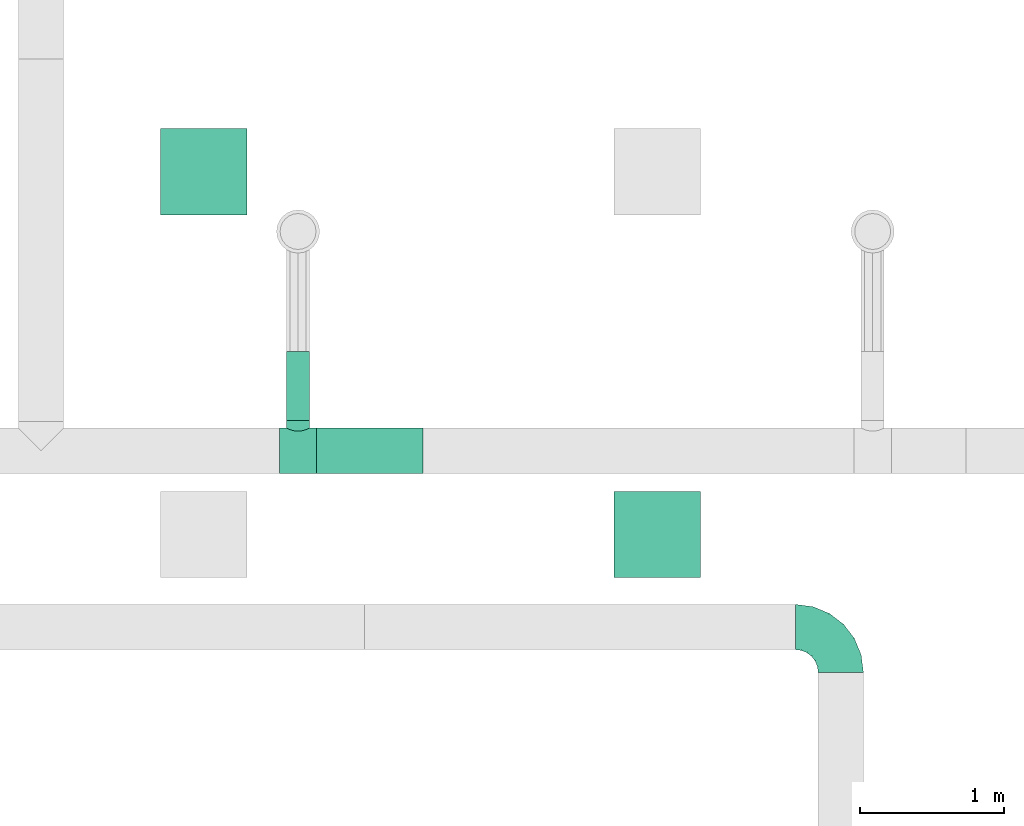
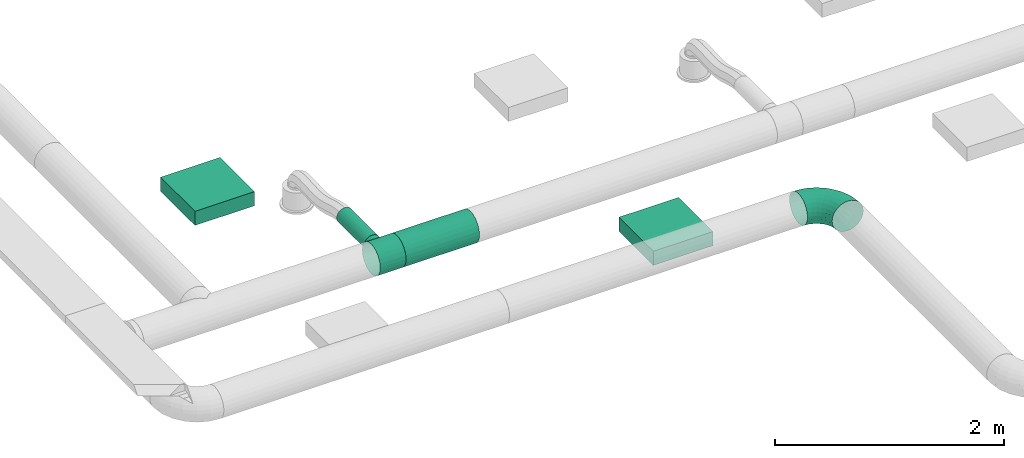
# One storey, part 17 of 119: 2 distribution elements, 2 flow fittings, 2 flow segments.
"""IFC2X3 building model written with IfcOpenShell, lengths in metres."""

import ifcopenshell
import ifcopenshell.guid

model = None  # the IFC model being written
_history = None  # IfcOwnerHistory: only IFC2X3 demands one
_inside = {}  # id of a spatial element -> (the spatial element, [elements in it])
_under = {}  # id of a project, library or spatial element -> (it, [spatial elements below it])
_declared = {}  # id of a project -> (the project, [libraries it declares])
_typed = {}  # id of a type object -> (the type object, [elements of that type])
_made_of = {}  # id of a material, layer set ... -> (it, [elements and type objects made of it])


def new_model(schema):
    """Start an empty IFC model of exactly this schema.

    Asked for "IFC4X3", IfcOpenShell would pick the latest addendum, in which some entities
    have other attributes; the version numbers below select the first issue.
    IFC2X3 requires an IfcOwnerHistory on every rooted entity: one is made here for all.
    """
    global model, _history
    if schema == "IFC4X3":
        model = ifcopenshell.file(schema_version=(4, 3, 0, 0))
    else:
        model = ifcopenshell.file(schema=schema)
    _inside.clear()
    _under.clear()
    _declared.clear()
    _typed.clear()
    _made_of.clear()
    _history = None
    if model.schema == "IFC2X3":
        org = make("IfcOrganization", Name="unknown")
        user = make(
            "IfcPersonAndOrganization",
            ThePerson=make("IfcPerson", FamilyName="unknown"),
            TheOrganization=org,
        )
        app = make(
            "IfcApplication",
            ApplicationDeveloper=org,
            Version="unknown",
            ApplicationFullName="unknown",
            ApplicationIdentifier="unknown",
        )
        _history = make(
            "IfcOwnerHistory",
            OwningUser=user,
            OwningApplication=app,
            ChangeAction="ADDED",
            CreationDate=0,
        )
    return model


def make(cls, **values):
    """One entity of the class cls with the attributes given. An attribute that is None is left unset."""
    return model.create_entity(
        cls, **{name: value for name, value in values.items() if value is not None}
    )


def rooted(cls, **values):
    """An entity with a GlobalId (a new one), such as an element, a storey or a relation."""
    return make(cls, GlobalId=ifcopenshell.guid.new(), OwnerHistory=_history, **values)


def si_unit(unit_type, name, prefix=None):
    """IfcSIUnit, for example si_unit("LENGTHUNIT", "METRE", prefix="MILLI")."""
    return make("IfcSIUnit", UnitType=unit_type, Prefix=prefix, Name=name)


def assignment(units):
    """IfcUnitAssignment: the units of a project."""
    return None if units is None else make("IfcUnitAssignment", Units=units)


def point(xyz):
    """IfcCartesianPoint."""
    return None if xyz is None else make("IfcCartesianPoint", Coordinates=xyz)


def direction(xyz):
    """IfcDirection."""
    return None if xyz is None else make("IfcDirection", DirectionRatios=xyz)


def frame(location, z_axis=None, x_axis=None):
    """IfcAxis2Placement3D, a coordinate frame: its origin and axes. An axis left out is left unset."""
    return make(
        "IfcAxis2Placement3D",
        Location=point(location),
        Axis=direction(z_axis),
        RefDirection=direction(x_axis),
    )


def frame_2d(location, x_axis=None):
    """IfcAxis2Placement2D, a coordinate frame in the plane: its origin and x axis."""
    return make(
        "IfcAxis2Placement2D", Location=point(location), RefDirection=direction(x_axis)
    )


def origin():
    """The frame at (0, 0, 0) with its axes left unset."""
    return frame((0.0, 0.0, 0.0))


def place(relative_to, where):
    """IfcLocalPlacement: puts the frame where relative to a parent placement (None: the world)."""
    return make(
        "IfcLocalPlacement", PlacementRelTo=relative_to, RelativePlacement=where
    )


def context(
    kind, dimensions, precision=None, world=None, true_north=None, identifier=None
):
    """IfcGeometricRepresentationContext, for example the 3D "Model" context."""
    return make(
        "IfcGeometricRepresentationContext",
        ContextIdentifier=identifier,
        ContextType=kind,
        CoordinateSpaceDimension=dimensions,
        Precision=precision,
        WorldCoordinateSystem=world,
        TrueNorth=true_north,
    )


def subcontext(parent, identifier, kind, view, scale=None):
    """IfcGeometricRepresentationSubContext, for example "Body" below "Model"."""
    return make(
        "IfcGeometricRepresentationSubContext",
        ContextIdentifier=identifier,
        ContextType=kind,
        ParentContext=parent,
        TargetScale=scale,
        TargetView=view,
    )


def project(units=None, contexts=None):
    """IfcProject with its units and contexts."""
    return rooted(
        "IfcProject",
        Name="project",
        RepresentationContexts=contexts,
        UnitsInContext=assignment(units),
    )


def spatial(cls, under=None, at=None, **own):
    """A site, building, storey or space (cls), placed at a placement, below another one or the project."""
    s = rooted(cls, ObjectPlacement=at, **own)
    if under is not None:
        _under.setdefault(under.id(), (under, []))[1].append(s)
    return s


def profile(cls, at=None, kind="AREA", **sizes):
    """A parametric profile (cls). Its sizes go by their IFC names, for example OverallWidth=200.0."""
    return make(cls, ProfileType=kind, Position=at, **sizes)


def rectangle(**sizes):
    """IfcRectangleProfileDef."""
    return profile("IfcRectangleProfileDef", **sizes)


def extrude(swept, where, along, depth):
    """IfcExtrudedAreaSolid: the profile swept, set in the frame where, extruded along a direction by depth."""
    return make(
        "IfcExtrudedAreaSolid",
        SweptArea=swept,
        Position=where,
        ExtrudedDirection=direction(along),
        Depth=depth,
    )


def faces_of(points, faces, orient=None, outer=None):
    """IfcFace entities. A face is a list of loops; a loop is a list of indices into points, from 0.

    orient and outer hold one flag for each loop. By default every Orientation is true, the
    first loop of a face is its IfcFaceOuterBound and the others are IfcFaceBound.
    """
    made = []
    for i, loops in enumerate(faces):
        bounds = []
        for j, loop in enumerate(loops):
            is_outer = j == 0 if outer is None else outer[i][j]
            bounds.append(
                make(
                    "IfcFaceOuterBound" if is_outer else "IfcFaceBound",
                    Bound=make("IfcPolyLoop", Polygon=[points[k] for k in loop]),
                    Orientation=True if orient is None else orient[i][j],
                )
            )
        made.append(make("IfcFace", Bounds=bounds))
    return made


def open_shell(faces, orient=None, outer=None):
    """The faces of one IfcOpenShell. surface_model builds it on its shared points."""
    return ("IfcOpenShell", faces, orient, outer)


def surface_model(cls, points, shells):
    """IfcFaceBasedSurfaceModel or IfcShellBasedSurfaceModel (cls): surfaces that need not close."""
    shared = [point(p) for p in points]
    made = [make(c, CfsFaces=faces_of(shared, fs, o, b)) for c, fs, o, b in shells]
    if cls == "IfcFaceBasedSurfaceModel":
        return make(cls, FbsmFaces=made)
    return make(cls, SbsmBoundary=made)


def shape(context_of_items, identifier, shape_type, items):
    """IfcShapeRepresentation: the items that make up one representation, for example the "Body"."""
    return make(
        "IfcShapeRepresentation",
        ContextOfItems=context_of_items,
        RepresentationIdentifier=identifier,
        RepresentationType=shape_type,
        Items=items,
    )


def source(mapping_origin, context_of_items, identifier, shape_type, items):
    """IfcRepresentationMap: a shape defined once, which mapped items show again and again."""
    return make(
        "IfcRepresentationMap",
        MappingOrigin=mapping_origin,
        MappedRepresentation=shape(context_of_items, identifier, shape_type, items),
    )


def transform(
    local_origin,
    x_axis=None,
    y_axis=None,
    z_axis=None,
    scale=None,
    scale2=None,
    scale3=None,
    uniform=True,
):
    """IfcCartesianTransformationOperator3D, or its non-uniform kind. x_axis, y_axis, z_axis: its Axis1, 2, 3."""
    if uniform:
        return make(
            "IfcCartesianTransformationOperator3D",
            Axis1=direction(x_axis),
            Axis2=direction(y_axis),
            LocalOrigin=point(local_origin),
            Scale=scale,
            Axis3=direction(z_axis),
        )
    return make(
        "IfcCartesianTransformationOperator3DnonUniform",
        Axis1=direction(x_axis),
        Axis2=direction(y_axis),
        LocalOrigin=point(local_origin),
        Scale=scale,
        Axis3=direction(z_axis),
        Scale2=scale2,
        Scale3=scale3,
    )


def mapped(mapping_source, mapping_target):
    """IfcMappedItem: shows the shape of a source again, moved by a transform."""
    return make(
        "IfcMappedItem", MappingSource=mapping_source, MappingTarget=mapping_target
    )


def made_of(thing, what):
    """Note that an element or type object is made of a material, layer set ...; save() writes the relation."""
    if what is not None:
        _made_of.setdefault(what.id(), (what, []))[1].append(thing)
    return thing


def element(
    cls,
    number,
    at=None,
    inside=None,
    cuts=None,
    type_object=None,
    material=None,
    context=None,
    identifier="Body",
    shape_type=None,
    held_by="IfcProductDefinitionShape",
    body=None,
    shapes=None,
    **own,
):
    """One element of the class cls, such as IfcWall. Its Tag is "e" and its number.

    at: its placement. inside: the storey or other place that contains it. cuts: it is an
    opening in that element (IfcRelVoidsElement). A single representation is given by context,
    identifier, shape_type and body (its items); several are given by shapes. held_by: the class
    of the entity that holds the representations. save() writes the other relations.
    """
    e = rooted(cls, Tag="e%d" % number, ObjectPlacement=at, **own)
    if body is not None:
        shapes = [shape(context, identifier, shape_type, body)]
    if shapes is not None:
        e.Representation = make(held_by, Representations=shapes)
    if inside is not None:
        _inside.setdefault(inside.id(), (inside, []))[1].append(e)
    if cuts is not None:
        rooted(
            "IfcRelVoidsElement", RelatingBuildingElement=cuts, RelatedOpeningElement=e
        )
    if type_object is not None:
        _typed.setdefault(type_object.id(), (type_object, []))[1].append(e)
    return made_of(e, material)


def aggregate(whole, parts):
    """IfcRelAggregates: a whole, such as a stair, and the parts it consists of."""
    return rooted("IfcRelAggregates", RelatingObject=whole, RelatedObjects=parts)


def save(model, path):
    """Write the relations noted so far, then the file.

    IfcRelAggregates (storeys below a building ...), IfcRelContainedInSpatialStructure (elements
    in a storey), IfcRelDefinesByType, IfcRelAssociatesMaterial and IfcRelDeclares: one each for
    every whole, place, type object, material and project.
    """
    for whole, parts in _under.values():
        aggregate(whole, parts)
    for where, things in _inside.values():
        rooted(
            "IfcRelContainedInSpatialStructure",
            RelatedElements=things,
            RelatingStructure=where,
        )
    for kind, things in _typed.values():
        rooted("IfcRelDefinesByType", RelatedObjects=things, RelatingType=kind)
    for what, things in _made_of.values():
        rooted("IfcRelAssociatesMaterial", RelatedObjects=things, RelatingMaterial=what)
    for by, libraries in _declared.values():
        rooted("IfcRelDeclares", RelatingContext=by, RelatedDefinitions=libraries)
    model.write(path)


model = new_model("IFC2X3")

# Units and contexts
model_context = context("Model", 3, precision=1e-05, world=origin(), true_north=direction((-0.4480736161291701, 0.8939966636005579)))
body_context = subcontext(model_context, "Body", "Model", "MODEL_VIEW")
ifc_project = project(units=[si_unit("LENGTHUNIT", "METRE"), si_unit("AREAUNIT", "SQUARE_METRE"), si_unit("VOLUMEUNIT", "CUBIC_METRE"), si_unit("PLANEANGLEUNIT", "RADIAN"), si_unit("THERMODYNAMICTEMPERATUREUNIT", "KELVIN"), si_unit("MASSUNIT", "GRAM", prefix="KILO"), si_unit("TIMEUNIT", "SECOND")], contexts=[model_context])

# Site, building, storey
site_placement = place(None, origin())
site = spatial("IfcSite", under=ifc_project, at=site_placement, Name="Site 1", CompositionType="ELEMENT")
building_placement = place(site_placement, origin())
building = spatial("IfcBuilding", under=site, at=building_placement, Name="Undefined", CompositionType="ELEMENT")
storey_placement = place(building_placement, frame((0.0, 0.0, 5.4)))
storey = spatial("IfcBuildingStorey", under=building, at=storey_placement, Name="R+1", CompositionType="ELEMENT", Elevation=5.4)

# Flow fitting
shared_shape_1 = source(origin(), body_context, "Body", "SurfaceModel", [
    surface_model("IfcFaceBasedSurfaceModel", [(0.0, 0.04111575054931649, 0.0), (0.0, 0.0, 0.0), (0.2599999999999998, -7.105427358e-15, 0.0), (0.259999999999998, 0.041115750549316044, 0.0), (0.0, -0.03971476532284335, -0.010641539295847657), (0.259999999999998, -0.03971476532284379, -0.010641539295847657), (0.0, -0.0753220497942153, -0.0311994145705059), (0.259999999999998, -0.07532204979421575, -0.0311994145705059), (0.0, -0.10439527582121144, -0.060272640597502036), (0.259999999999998, -0.10439527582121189, -0.060272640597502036), (0.0, -0.12495315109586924, -0.09587992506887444), (0.259999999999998, -0.12495315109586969, -0.09587992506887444), (0.0, -0.13559469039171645, -0.13559469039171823), (0.259999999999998, -0.1355946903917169, -0.13559469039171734), (0.0, -0.135594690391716, -0.17671044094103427), (0.259999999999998, -0.13559469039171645, -0.1767104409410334), (0.0, -0.1249531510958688, -0.21642520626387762), (0.259999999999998, -0.12495315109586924, -0.21642520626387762), (0.0, -0.10439527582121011, -0.2520324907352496), (0.259999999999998, -0.10439527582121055, -0.2520324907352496), (0.0, -0.07532204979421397, -0.2811057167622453), (0.259999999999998, -0.07532204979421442, -0.2811057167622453), (0.0, -0.039714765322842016, -0.3016635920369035), (0.259999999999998, -0.03971476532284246, -0.3016635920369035), (0.0, 1.776356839e-15, -0.3123051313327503), (0.259999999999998, 1.33226763e-15, -0.3123051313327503), (0.0, 0.041115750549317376, -0.31230513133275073), (0.259999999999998, 0.04111575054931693, -0.31230513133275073), (0.0, 0.08083051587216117, -0.30166359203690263), (0.259999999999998, 0.08083051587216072, -0.30166359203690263), (0.0, 0.11643780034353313, -0.28110571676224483), (0.259999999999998, 0.11643780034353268, -0.28110571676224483), (0.0, 0.14551102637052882, -0.25203249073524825), (0.259999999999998, 0.14551102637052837, -0.25203249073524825), (0.0, 0.16606890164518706, -0.2164252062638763), (0.259999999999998, 0.16606890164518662, -0.21642520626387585), (0.0, 0.17671044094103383, -0.1767104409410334), (0.259999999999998, 0.1767104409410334, -0.1767104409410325), (0.0, 0.17671044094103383, -0.1355946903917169), (0.259999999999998, 0.1767104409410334, -0.13559469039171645), (0.0, 0.16606890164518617, -0.09587992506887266), (0.259999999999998, 0.16606890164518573, -0.09587992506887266), (0.0, 0.14551102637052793, -0.06027264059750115), (0.259999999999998, 0.14551102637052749, -0.06027264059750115), (0.0, 0.1164378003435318, -0.031199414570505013), (0.259999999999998, 0.11643780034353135, -0.031199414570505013), (0.0, 0.08083051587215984, -0.010641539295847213), (0.259999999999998, 0.08083051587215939, -0.010641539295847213), (0.21000000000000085, 0.1767104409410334, -0.1767104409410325), (0.2072740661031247, 0.1726525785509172, -0.19706040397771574), (0.2072740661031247, 0.22605868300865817, -0.20409145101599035), (0.21000000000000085, 0.22876129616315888, -0.18356306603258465), (0.19928203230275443, 0.16636954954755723, -0.21569419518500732), (0.19928203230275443, 0.22354024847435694, -0.2232208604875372), (0.18656854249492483, 0.15890731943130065, -0.2314232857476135), (0.18656854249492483, 0.22137761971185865, -0.23964765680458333), (0.1699999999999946, 0.15174813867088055, -0.2433039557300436), (0.1699999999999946, 0.21971817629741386, -0.2522523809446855), (0.15070552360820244, 0.14653802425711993, -0.25067902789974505), (0.15070552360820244, 0.21867500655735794, -0.2601760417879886), (0.12999999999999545, 0.14462474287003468, -0.25317659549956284), (0.12999999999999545, 0.218319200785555, -0.26287865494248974), (0.10929447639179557, 0.14653802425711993, -0.25067902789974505), (0.10929447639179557, 0.21867500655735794, -0.2601760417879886), (0.0899999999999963, 0.15174813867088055, -0.2433039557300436), (0.0899999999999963, 0.21971817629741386, -0.2522523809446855), (0.07343145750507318, 0.15890731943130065, -0.2314232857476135), (0.07343145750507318, 0.22137761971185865, -0.23964765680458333), (0.06071796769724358, 0.16636954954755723, -0.21569419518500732), (0.06071796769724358, 0.22354024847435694, -0.2232208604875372), (0.0527259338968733, 0.1726525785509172, -0.19706040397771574), (0.0527259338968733, 0.22605868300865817, -0.20409145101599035), (0.04999999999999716, 0.1767104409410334, -0.1767104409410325), (0.04999999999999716, 0.22876129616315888, -0.18356306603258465), (0.0527259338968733, 0.17805780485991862, -0.15600363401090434), (0.0527259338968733, 0.2314639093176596, -0.16303468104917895), (0.06071796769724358, 0.1768116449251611, -0.13637860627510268), (0.06071796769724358, 0.23398234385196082, -0.14390527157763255), (0.07343145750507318, 0.1736746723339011, -0.11925410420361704), (0.07343145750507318, 0.2361449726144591, -0.12747847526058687), (0.0899999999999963, 0.1698343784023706, -0.10592532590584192), (0.0899999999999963, 0.2378044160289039, -0.11487375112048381), (0.10929447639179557, 0.16671060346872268, -0.09745307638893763), (0.10929447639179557, 0.23884758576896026, -0.10695009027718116), (0.12999999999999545, 0.16550893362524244, -0.09454541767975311), (0.12999999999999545, 0.23920339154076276, -0.10424747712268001), (0.15070552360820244, 0.16671060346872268, -0.09745307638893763), (0.15070552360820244, 0.23884758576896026, -0.10695009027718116), (0.1699999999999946, 0.1698343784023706, -0.10592532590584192), (0.1699999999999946, 0.2378044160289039, -0.11487375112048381), (0.18656854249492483, 0.1736746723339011, -0.11925410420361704), (0.18656854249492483, 0.2361449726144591, -0.12747847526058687), (0.19928203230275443, 0.1768116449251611, -0.13637860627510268), (0.19928203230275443, 0.23398234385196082, -0.14390527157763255), (0.2072740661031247, 0.17805780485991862, -0.15600363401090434), (0.2072740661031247, 0.2314639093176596, -0.16303468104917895)], [open_shell([[[0, 1, 2, 3]], [[1, 4, 5, 2]], [[4, 6, 7, 5]], [[6, 8, 9, 7]], [[8, 10, 11, 9]], [[10, 12, 13, 11]], [[12, 14, 15, 13]], [[14, 16, 17, 15]], [[16, 18, 19, 17]], [[18, 20, 21, 19]], [[20, 22, 23, 21]], [[22, 24, 25, 23]], [[24, 26, 27, 25]], [[26, 28, 29, 27]], [[28, 30, 31, 29]], [[30, 32, 33, 31]], [[32, 34, 35, 33]], [[34, 36, 37, 35]], [[36, 38, 39, 37]], [[38, 40, 41, 39]], [[40, 42, 43, 41]], [[42, 44, 45, 43]], [[44, 46, 47, 45]], [[46, 0, 3, 47]], [[48, 49, 50, 51]], [[49, 52, 53, 50]], [[52, 54, 55, 53]], [[54, 56, 57, 55]], [[56, 58, 59, 57]], [[58, 60, 61, 59]], [[60, 62, 63, 61]], [[62, 64, 65, 63]], [[64, 66, 67, 65]], [[66, 68, 69, 67]], [[68, 70, 71, 69]], [[70, 72, 73, 71]], [[72, 74, 75, 73]], [[74, 76, 77, 75]], [[76, 78, 79, 77]], [[78, 80, 81, 79]], [[80, 82, 83, 81]], [[82, 84, 85, 83]], [[84, 86, 87, 85]], [[86, 88, 89, 87]], [[88, 90, 91, 89]], [[90, 92, 93, 91]], [[92, 94, 95, 93]], [[94, 48, 51, 95]]])]),
])
flow_fitting_1_placement = place(storey_placement, origin())
element("IfcFlowFitting", 1, at=flow_fitting_1_placement, inside=storey, Name="Pièce en té 90°", ObjectType="Pièce en té 90°", context=body_context, shape_type="MappedRepresentation", body=[
    mapped(shared_shape_1, transform((30.163289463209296, 20.46361233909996, 2.902133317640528), x_axis=(1.0, 0.0, 0.0), y_axis=(0.0, 0.9914448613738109, 0.1305261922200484), z_axis=(0.0, -0.1305261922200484, 0.9914448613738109))),
])

# Flow segment
shared_shape_2 = source(origin(), body_context, "Body", "SurfaceModel", [
    surface_model("IfcFaceBasedSurfaceModel", [(0.0, 0.04111575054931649, 0.0), (0.0, 0.0, 0.0), (0.7399999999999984, 0.0, 0.0), (0.7400000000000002, 0.0411157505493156, -4.4408921e-16), (0.0, -0.03971476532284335, -0.010641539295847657), (0.7400000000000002, -0.03971476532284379, -0.010641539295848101), (0.0, -0.0753220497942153, -0.0311994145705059), (0.7400000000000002, -0.07532204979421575, -0.031199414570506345), (0.0, -0.10439527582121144, -0.060272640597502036), (0.7400000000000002, -0.10439527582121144, -0.06027264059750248), (0.0, -0.12495315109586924, -0.09587992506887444), (0.7400000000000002, -0.12495315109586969, -0.09587992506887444), (0.0, -0.13559469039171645, -0.13559469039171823), (0.7400000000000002, -0.13559469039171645, -0.13559469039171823), (0.0, -0.135594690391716, -0.17671044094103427), (0.7400000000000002, -0.1355946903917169, -0.17671044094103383), (0.0, -0.1249531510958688, -0.21642520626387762), (0.7400000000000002, -0.12495315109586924, -0.21642520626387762), (0.0, -0.10439527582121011, -0.2520324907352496), (0.7400000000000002, -0.104395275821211, -0.2520324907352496), (0.0, -0.07532204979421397, -0.2811057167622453), (0.7400000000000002, -0.07532204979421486, -0.2811057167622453), (0.0, -0.039714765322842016, -0.3016635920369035), (0.7400000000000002, -0.039714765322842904, -0.3016635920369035), (0.0, 1.776356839e-15, -0.3123051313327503), (0.7400000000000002, 4.4408921e-16, -0.31230513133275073), (0.0, 0.041115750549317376, -0.31230513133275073), (0.7400000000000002, 0.04111575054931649, -0.31230513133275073), (0.0, 0.08083051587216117, -0.30166359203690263), (0.7400000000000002, 0.08083051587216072, -0.30166359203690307), (0.0, 0.11643780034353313, -0.28110571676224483), (0.7400000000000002, 0.11643780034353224, -0.28110571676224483), (0.0, 0.14551102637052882, -0.25203249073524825), (0.7400000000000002, 0.14551102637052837, -0.2520324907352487), (0.0, 0.16606890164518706, -0.2164252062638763), (0.7400000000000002, 0.16606890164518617, -0.21642520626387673), (0.0, 0.17671044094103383, -0.1767104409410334), (0.7400000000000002, 0.17671044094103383, -0.1767104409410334), (0.0, 0.17671044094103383, -0.1355946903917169), (0.7400000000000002, 0.1767104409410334, -0.13559469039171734), (0.0, 0.16606890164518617, -0.09587992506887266), (0.7400000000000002, 0.16606890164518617, -0.09587992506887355), (0.0, 0.14551102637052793, -0.06027264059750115), (0.7400000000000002, 0.14551102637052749, -0.06027264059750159), (0.0, 0.1164378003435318, -0.031199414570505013), (0.7400000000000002, 0.1164378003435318, -0.0311994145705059), (0.0, 0.08083051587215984, -0.010641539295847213), (0.7400000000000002, 0.08083051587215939, -0.010641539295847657)], [open_shell([[[0, 1, 2, 3]], [[1, 4, 5, 2]], [[4, 6, 7, 5]], [[6, 8, 9, 7]], [[8, 10, 11, 9]], [[10, 12, 13, 11]], [[12, 14, 15, 13]], [[14, 16, 17, 15]], [[16, 18, 19, 17]], [[18, 20, 21, 19]], [[20, 22, 23, 21]], [[22, 24, 25, 23]], [[24, 26, 27, 25]], [[26, 28, 29, 27]], [[28, 30, 31, 29]], [[30, 32, 33, 31]], [[32, 34, 35, 33]], [[34, 36, 37, 35]], [[36, 38, 39, 37]], [[38, 40, 41, 39]], [[40, 42, 43, 41]], [[42, 44, 45, 43]], [[44, 46, 47, 45]], [[46, 0, 3, 47]]])]),
])
flow_segment_1_placement = place(storey_placement, origin())
element("IfcFlowSegment", 2, at=flow_segment_1_placement, inside=storey, Name="Tube", ObjectType="Tube", context=body_context, shape_type="MappedRepresentation", body=[
    mapped(shared_shape_2, transform((31.163289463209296, 20.54514033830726, 2.902133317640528), x_axis=(-1.0, 0.0, 0.0), y_axis=(7.266545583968e-12, -0.9914448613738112, 0.13052619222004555), z_axis=(0.0, 0.13052619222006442, 0.9914448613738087))),
])

# Flow fitting
shared_shape_3 = source(origin(), body_context, "Body", "SurfaceModel", [
    surface_model("IfcFaceBasedSurfaceModel", [(0.12334725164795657, 0.0, -1.110223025e-15), (0.12264675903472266, 0.04110978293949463, -7.77156117e-16), (0.0007004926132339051, 0.041109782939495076, -7.77156117e-16), (0.0, 0.0, 0.0), (-0.1170905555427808, 0.04519480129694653, -0.031296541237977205), (-0.11914429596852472, 0.004131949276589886, -0.0316560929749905), (-0.22269912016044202, 0.05308645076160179, -0.0917568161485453), (-0.2259661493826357, 0.01211426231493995, -0.09281096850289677), (-0.3089281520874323, 0.06424692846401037, -0.1772605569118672), (-0.313185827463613, 0.023402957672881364, -0.17929702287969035), (-0.3699012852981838, 0.07791566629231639, -0.2819808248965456), (-0.3748594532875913, 0.03722872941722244, -0.285220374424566), (-0.4014633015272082, 0.09316116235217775, -0.39878110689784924), (-0.4067840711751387, 0.05264937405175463, -0.40336252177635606), (0.12059301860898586, 0.08079531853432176, -0.01055203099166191), (0.0027542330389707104, 0.08079531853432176, -0.01055203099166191), (-0.11106929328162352, 0.08474274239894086, -0.04079441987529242), (-0.21312067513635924, 0.09236857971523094, -0.09921822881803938), (-0.2964452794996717, 0.1031531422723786, -0.18184197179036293), (-0.3553646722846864, 0.11636147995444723, -0.2830349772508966), (-0.38586359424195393, 0.131093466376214, -0.39590110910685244), (0.11732598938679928, 0.11635210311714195, -0.03093698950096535), (0.006021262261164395, 0.1163521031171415, -0.030936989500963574), (-0.10149084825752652, 0.12008064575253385, -0.05950246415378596), (-0.19788356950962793, 0.12728363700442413, -0.11468672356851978), (-0.2765878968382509, 0.13747020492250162, -0.19272905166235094), (-0.3322402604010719, 0.14994615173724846, -0.28831099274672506), (-0.36104804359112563, 0.16386126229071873, -0.3949187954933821), (0.11306831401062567, 0.14535700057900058, -0.05976567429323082), (0.010278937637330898, 0.14535700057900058, -0.05976567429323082), (-0.08900797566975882, 0.14880029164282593, -0.08614575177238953), (-0.17802618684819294, 0.15545221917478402, -0.13710814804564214), (-0.25070925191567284, 0.16485946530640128, -0.2091798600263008), (-0.3021039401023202, 0.1763809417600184, -0.29744931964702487), (-0.32870778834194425, 0.189231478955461, -0.395901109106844), (0.10811014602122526, 0.16583337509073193, -0.09507345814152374), (0.015237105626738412, 0.16583337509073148, -0.09507345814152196), (-0.07447136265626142, 0.16894448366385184, -0.1189085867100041), (-0.15490177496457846, 0.17495468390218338, -0.16495451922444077), (-0.22057293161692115, 0.1834543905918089, -0.230073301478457), (-0.26700945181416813, 0.1938643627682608, -0.3098271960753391), (-0.2910467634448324, 0.20547517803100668, -0.3987811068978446), (0.10278937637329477, 0.17638579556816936, -0.13445417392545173), (0.020557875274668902, 0.17638579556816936, -0.1344541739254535), (-0.05887165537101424, 0.17914042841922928, -0.15555823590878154), (-0.13008622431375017, 0.18446197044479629, -0.1963281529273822), (-0.18823267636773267, 0.19198776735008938, -0.2539855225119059), (-0.22934842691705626, 0.20120494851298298, -0.324601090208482), (-0.2506315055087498, 0.21148537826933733, -0.40336252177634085), (0.09746860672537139, 0.17629513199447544, -0.17522409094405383), (0.025878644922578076, 0.17629513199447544, -0.17522409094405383), (-0.043271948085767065, 0.17869328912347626, -0.19359708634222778), (-0.10527067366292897, 0.18332617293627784, -0.22909098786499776), (-0.1558924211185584, 0.1898780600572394, -0.2792869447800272), (-0.1916874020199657, 0.19790245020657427, -0.3407641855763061), (-0.21021624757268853, 0.20685249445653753, -0.40933313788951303), (0.09251043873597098, 0.1655675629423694, -0.2146048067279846), (0.030836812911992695, 0.1655675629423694, -0.21460480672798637), (-0.028735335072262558, 0.1676335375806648, -0.2304328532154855), (-0.0821462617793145, 0.17162469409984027, -0.261010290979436), (-0.1257561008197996, 0.1772690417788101, -0.3042533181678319), (-0.1565929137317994, 0.18418192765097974, -0.35721499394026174), (-0.17255522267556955, 0.1918922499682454, -0.4162860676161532), (0.08825276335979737, 0.14493415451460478, -0.24991259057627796), (0.0350944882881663, 0.14493415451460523, -0.2499125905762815), (-0.01625246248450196, 0.1467148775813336, -0.2635552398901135), (-0.06228887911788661, 0.15015497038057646, -0.28991081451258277), (-0.09987745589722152, 0.15501999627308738, -0.32718322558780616), (-0.1264565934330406, 0.16097841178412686, -0.3728324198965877), (-0.14021496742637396, 0.16762416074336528, -0.4237474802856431), (0.08498573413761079, 0.11580103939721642, -0.27874127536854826), (0.03836151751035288, 0.11580103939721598, -0.2787412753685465), (-0.0066740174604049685, 0.11736288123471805, -0.2907070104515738), (-0.0470517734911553, 0.12038012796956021, -0.3138230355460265), (-0.08002007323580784, 0.12464715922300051, -0.34651403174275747), (-0.10333218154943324, 0.1298731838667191, -0.3865521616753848), (-0.11539941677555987, 0.13570205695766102, -0.43120889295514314), (0.08293199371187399, 0.08015359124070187, -0.2991262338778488), (0.04041525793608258, 0.08015359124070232, -0.2991262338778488), (-0.0006527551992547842, 0.08157783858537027, -0.31003781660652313), (-0.037473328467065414, 0.08432927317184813, -0.3311173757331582), (-0.06753720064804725, 0.08822038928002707, -0.36092837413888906), (-0.08879556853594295, 0.09298601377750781, -0.3974392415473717), (-0.0997997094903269, 0.09830137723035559, -0.438161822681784), (0.08223150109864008, 0.040421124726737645, -0.30967826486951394), (0.0411157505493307, 0.040421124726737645, -0.30967826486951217), (0.001400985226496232, 0.04179844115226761, -0.32023029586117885), (-0.03420629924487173, 0.044459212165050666, -0.34061525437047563), (-0.06327952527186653, 0.04822211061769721, -0.3694439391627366), (-0.08383740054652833, 0.052830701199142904, -0.4047517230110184), (-0.0944789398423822, 0.057970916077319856, -0.44413243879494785), (0.08293199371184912, -0.0006886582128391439, -0.3096782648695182), (0.040415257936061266, -0.0006886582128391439, -0.3096782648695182), (-0.0006527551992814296, 0.0007355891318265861, -0.32058984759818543), (-0.037473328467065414, 0.0034870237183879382, -0.34166940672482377), (-0.06753720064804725, 0.00737813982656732, -0.37148040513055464), (-0.08879556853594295, 0.012143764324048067, -0.4079912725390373), (-0.0997997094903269, 0.017459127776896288, -0.44871385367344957), (0.08498573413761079, -0.040374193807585, -0.29912623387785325), (0.03836151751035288, -0.040374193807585, -0.2991262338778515), (-0.0066740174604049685, -0.03881235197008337, -0.3110919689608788), (-0.0470517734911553, -0.03579510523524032, -0.33420799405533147), (-0.08002007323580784, -0.031528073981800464, -0.36689899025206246), (-0.10333218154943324, -0.02630204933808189, -0.4069371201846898), (-0.11539941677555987, -0.020473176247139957, -0.45159385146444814), (0.08825276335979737, -0.07593097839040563, -0.2787412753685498), (0.0350944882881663, -0.07593097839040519, -0.27874127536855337), (-0.01625246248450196, -0.0741502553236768, -0.29238392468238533), (-0.06228887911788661, -0.07071016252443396, -0.3187394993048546), (-0.09987745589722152, -0.06584513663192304, -0.356011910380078), (-0.1264565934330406, -0.05988672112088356, -0.40166110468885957), (-0.14021496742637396, -0.05324097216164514, -0.4525761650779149), (0.09251043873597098, -0.10493587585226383, -0.2499125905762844), (0.030836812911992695, -0.10493587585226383, -0.24991259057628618), (-0.028735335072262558, -0.10286990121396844, -0.2657406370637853), (-0.0821462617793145, -0.09887874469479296, -0.2963180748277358), (-0.1257561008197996, -0.09323439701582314, -0.3395611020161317), (-0.1565929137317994, -0.0863215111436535, -0.39252277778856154), (-0.17255522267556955, -0.07861118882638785, -0.451593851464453), (0.09746860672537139, -0.12541225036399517, -0.21460480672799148), (0.025878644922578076, -0.12541225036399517, -0.21460480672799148), (-0.043271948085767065, -0.12301409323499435, -0.23297780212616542), (-0.10527067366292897, -0.11838120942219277, -0.2684717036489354), (-0.1558924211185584, -0.11182932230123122, -0.31866766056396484), (-0.1916874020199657, -0.10380493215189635, -0.38014490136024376), (-0.21021624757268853, -0.09485488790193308, -0.4487138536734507), (0.10278937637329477, -0.13596467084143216, -0.1752240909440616), (0.020557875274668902, -0.13596467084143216, -0.17522409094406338), (-0.05887165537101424, -0.1332100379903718, -0.19632815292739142), (-0.13008622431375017, -0.12788849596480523, -0.23709806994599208), (-0.18823267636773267, -0.12036269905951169, -0.2947554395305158), (-0.22934842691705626, -0.11114551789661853, -0.36537100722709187), (-0.2506315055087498, -0.10086508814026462, -0.44413243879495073), (0.10811014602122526, -0.13587400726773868, -0.13445417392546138), (0.015237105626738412, -0.13587400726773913, -0.1344541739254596), (-0.07447136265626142, -0.13276289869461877, -0.15828930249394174), (-0.15490177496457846, -0.12675269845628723, -0.2043352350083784), (-0.22057293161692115, -0.11825299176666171, -0.26945401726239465), (-0.26700945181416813, -0.10784301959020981, -0.34920791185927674), (-0.2910467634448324, -0.09623220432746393, -0.4381618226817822), (0.11306831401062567, -0.12514643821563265, -0.09507345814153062), (0.010278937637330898, -0.12514643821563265, -0.09507345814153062), (-0.08900797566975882, -0.1217031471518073, -0.12145353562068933), (-0.17802618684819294, -0.11505121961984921, -0.17241593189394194), (-0.25070925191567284, -0.10564397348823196, -0.2444876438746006), (-0.3021039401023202, -0.09412249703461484, -0.33275710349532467), (-0.32870778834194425, -0.08127195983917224, -0.4312088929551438), (0.11732598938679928, -0.10451302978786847, -0.05976567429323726), (0.006021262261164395, -0.10451302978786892, -0.05976567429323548), (-0.10149084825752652, -0.10078448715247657, -0.08833114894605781), (-0.19788356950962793, -0.09358149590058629, -0.14351540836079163), (-0.2765878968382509, -0.0833949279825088, -0.2215577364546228), (-0.3322402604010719, -0.07091898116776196, -0.3171396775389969), (-0.36104804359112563, -0.057003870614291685, -0.42374748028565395), (0.12059301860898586, -0.07537991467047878, -0.030936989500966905), (0.0027542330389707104, -0.07537991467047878, -0.030936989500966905), (-0.11106929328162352, -0.07143249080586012, -0.06117937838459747), (-0.21312067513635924, -0.06380665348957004, -0.11960318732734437), (-0.2964452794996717, -0.05302209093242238, -0.20222693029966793), (-0.3553646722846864, -0.039813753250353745, -0.3034199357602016), (-0.38586359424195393, -0.025081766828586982, -0.41628606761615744), (0.12264675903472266, -0.039732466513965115, -0.010552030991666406), (0.0007004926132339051, -0.039732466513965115, -0.010552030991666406), (-0.1170905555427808, -0.03564744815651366, -0.04184857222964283), (-0.22269912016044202, -0.027755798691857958, -0.10230884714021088), (-0.3089281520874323, -0.016595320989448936, -0.18781258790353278), (-0.3699012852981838, -0.002926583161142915, -0.29253285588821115), (-0.4014633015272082, 0.012318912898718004, -0.4093331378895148)], [open_shell([[[0, 1, 2, 3]], [[3, 2, 4, 5]], [[5, 4, 6, 7]], [[7, 6, 8, 9]], [[9, 8, 10, 11]], [[11, 10, 12, 13]], [[1, 14, 15, 2]], [[2, 15, 16, 4]], [[4, 16, 17, 6]], [[6, 17, 18, 8]], [[8, 18, 19, 10]], [[10, 19, 20, 12]], [[14, 21, 22, 15]], [[15, 22, 23, 16]], [[16, 23, 24, 17]], [[17, 24, 25, 18]], [[18, 25, 26, 19]], [[19, 26, 27, 20]], [[21, 28, 29, 22]], [[22, 29, 30, 23]], [[23, 30, 31, 24]], [[24, 31, 32, 25]], [[25, 32, 33, 26]], [[26, 33, 34, 27]], [[28, 35, 36, 29]], [[29, 36, 37, 30]], [[30, 37, 38, 31]], [[31, 38, 39, 32]], [[32, 39, 40, 33]], [[33, 40, 41, 34]], [[35, 42, 43, 36]], [[36, 43, 44, 37]], [[37, 44, 45, 38]], [[38, 45, 46, 39]], [[39, 46, 47, 40]], [[40, 47, 48, 41]], [[42, 49, 50, 43]], [[43, 50, 51, 44]], [[44, 51, 52, 45]], [[45, 52, 53, 46]], [[46, 53, 54, 47]], [[47, 54, 55, 48]], [[49, 56, 57, 50]], [[50, 57, 58, 51]], [[51, 58, 59, 52]], [[52, 59, 60, 53]], [[53, 60, 61, 54]], [[54, 61, 62, 55]], [[56, 63, 64, 57]], [[57, 64, 65, 58]], [[58, 65, 66, 59]], [[59, 66, 67, 60]], [[60, 67, 68, 61]], [[61, 68, 69, 62]], [[63, 70, 71, 64]], [[64, 71, 72, 65]], [[65, 72, 73, 66]], [[66, 73, 74, 67]], [[67, 74, 75, 68]], [[68, 75, 76, 69]], [[70, 77, 78, 71]], [[71, 78, 79, 72]], [[72, 79, 80, 73]], [[73, 80, 81, 74]], [[74, 81, 82, 75]], [[75, 82, 83, 76]], [[77, 84, 85, 78]], [[78, 85, 86, 79]], [[79, 86, 87, 80]], [[80, 87, 88, 81]], [[81, 88, 89, 82]], [[82, 89, 90, 83]], [[84, 91, 92, 85]], [[85, 92, 93, 86]], [[86, 93, 94, 87]], [[87, 94, 95, 88]], [[88, 95, 96, 89]], [[89, 96, 97, 90]], [[91, 98, 99, 92]], [[92, 99, 100, 93]], [[93, 100, 101, 94]], [[94, 101, 102, 95]], [[95, 102, 103, 96]], [[96, 103, 104, 97]], [[98, 105, 106, 99]], [[99, 106, 107, 100]], [[100, 107, 108, 101]], [[101, 108, 109, 102]], [[102, 109, 110, 103]], [[103, 110, 111, 104]], [[105, 112, 113, 106]], [[106, 113, 114, 107]], [[107, 114, 115, 108]], [[108, 115, 116, 109]], [[109, 116, 117, 110]], [[110, 117, 118, 111]], [[112, 119, 120, 113]], [[113, 120, 121, 114]], [[114, 121, 122, 115]], [[115, 122, 123, 116]], [[116, 123, 124, 117]], [[117, 124, 125, 118]], [[119, 126, 127, 120]], [[120, 127, 128, 121]], [[121, 128, 129, 122]], [[122, 129, 130, 123]], [[123, 130, 131, 124]], [[124, 131, 132, 125]], [[126, 133, 134, 127]], [[127, 134, 135, 128]], [[128, 135, 136, 129]], [[129, 136, 137, 130]], [[130, 137, 138, 131]], [[131, 138, 139, 132]], [[133, 140, 141, 134]], [[134, 141, 142, 135]], [[135, 142, 143, 136]], [[136, 143, 144, 137]], [[137, 144, 145, 138]], [[138, 145, 146, 139]], [[140, 147, 148, 141]], [[141, 148, 149, 142]], [[142, 149, 150, 143]], [[143, 150, 151, 144]], [[144, 151, 152, 145]], [[145, 152, 153, 146]], [[147, 154, 155, 148]], [[148, 155, 156, 149]], [[149, 156, 157, 150]], [[150, 157, 158, 151]], [[151, 158, 159, 152]], [[152, 159, 160, 153]], [[154, 161, 162, 155]], [[155, 162, 163, 156]], [[156, 163, 164, 157]], [[157, 164, 165, 158]], [[158, 165, 166, 159]], [[159, 166, 167, 160]], [[161, 0, 3, 162]], [[162, 3, 5, 163]], [[163, 5, 7, 164]], [[164, 7, 9, 165]], [[165, 9, 11, 166]], [[166, 11, 13, 167]]])]),
])
flow_fitting_2_placement = place(storey_placement, origin())
element("IfcFlowFitting", 3, at=flow_fitting_2_placement, inside=storey, Name="Coude", ObjectType="Coude", context=body_context, shape_type="MappedRepresentation", body=[
    mapped(shared_shape_3, transform((34.21267732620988, 19.083922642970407, 2.775), x_axis=(0.13052619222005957, -0.9914448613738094, 0.0), y_axis=(-0.12832103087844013, -0.016893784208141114, -0.9915887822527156), z_axis=(0.983105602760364, 0.12942830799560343, -0.1294283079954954))),
])

# Flow segment
shared_shape_4 = source(origin(), body_context, "Body", "SurfaceModel", [
    surface_model("IfcFaceBasedSurfaceModel", [(0.0, 0.020884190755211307, 0.0), (0.0, 0.0, 0.0), (0.4806194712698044, 0.0, -8.8817842e-16), (0.4806194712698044, 0.020884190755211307, 0.0), (0.0, -0.020172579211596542, -0.005405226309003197), (0.4806194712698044, -0.020172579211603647, -0.005405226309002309), (0.0, -0.03825881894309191, -0.015847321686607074), (0.4806194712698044, -0.038258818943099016, -0.015847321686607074), (0.0, -0.05302617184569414, -0.0306146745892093), (0.4806194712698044, -0.05302617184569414, -0.030614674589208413), (0.0, -0.06346826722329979, -0.04870091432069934), (0.4806194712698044, -0.06346826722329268, -0.04870091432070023), (0.0, -0.06887349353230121, -0.06887349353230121), (0.4806194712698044, -0.06887349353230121, -0.0688734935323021), (0.0, -0.06887349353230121, -0.08975768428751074), (0.4806194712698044, -0.0688734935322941, -0.08975768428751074), (0.0, -0.06346826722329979, -0.10993026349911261), (0.4806194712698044, -0.06346826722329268, -0.1099302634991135), (0.0, -0.05302617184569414, -0.12801650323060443), (0.4806194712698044, -0.05302617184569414, -0.12801650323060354), (0.0, -0.038258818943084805, -0.14278385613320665), (0.4806194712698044, -0.03825881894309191, -0.142783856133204), (0.0, -0.020172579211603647, -0.15322595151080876), (0.4806194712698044, -0.020172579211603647, -0.15322595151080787), (0.0, 7.105427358e-15, -0.15863117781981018), (0.4806194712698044, 0.0, -0.15863117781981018), (0.0, 0.020884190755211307, -0.15863117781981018), (0.4806194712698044, 0.020884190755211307, -0.1586311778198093), (0.0, 0.04105676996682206, -0.15322595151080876), (0.4806194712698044, 0.041056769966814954, -0.15322595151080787), (0.0, 0.05914300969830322, -0.1427838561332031), (0.4806194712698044, 0.05914300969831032, -0.1427838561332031), (0.0, 0.07391036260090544, -0.12801650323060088), (0.4806194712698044, 0.07391036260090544, -0.12801650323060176), (0.0, 0.0843524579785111, -0.10993026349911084), (0.4806194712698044, 0.0843524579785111, -0.10993026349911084), (0.0, 0.08975768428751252, -0.08975768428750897), (0.4806194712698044, 0.08975768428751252, -0.08975768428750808), (0.0, 0.08975768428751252, -0.06887349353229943), (0.4806194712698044, 0.08975768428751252, -0.06887349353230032), (0.0, 0.0843524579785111, -0.048700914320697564), (0.4806194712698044, 0.08435245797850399, -0.048700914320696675), (0.0, 0.07391036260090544, -0.030614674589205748), (0.4806194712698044, 0.07391036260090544, -0.030614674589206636), (0.0, 0.05914300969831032, -0.015847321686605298), (0.4806194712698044, 0.05914300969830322, -0.015847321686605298), (0.0, 0.04105676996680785, -0.005405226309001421), (0.4806194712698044, 0.041056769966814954, -0.005405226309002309)], [open_shell([[[0, 1, 2, 3]], [[1, 4, 5, 2]], [[4, 6, 7, 5]], [[6, 8, 9, 7]], [[8, 10, 11, 9]], [[10, 12, 13, 11]], [[12, 14, 15, 13]], [[14, 16, 17, 15]], [[16, 18, 19, 17]], [[18, 20, 21, 19]], [[20, 22, 23, 21]], [[22, 24, 25, 23]], [[24, 26, 27, 25]], [[26, 28, 29, 27]], [[28, 30, 31, 29]], [[30, 32, 33, 31]], [[32, 34, 35, 33]], [[34, 36, 37, 35]], [[36, 38, 39, 37]], [[38, 40, 41, 39]], [[40, 42, 43, 41]], [[42, 44, 45, 43]], [[44, 46, 47, 45]], [[46, 0, 3, 47]]])]),
])
flow_segment_2_placement = place(storey_placement, origin())
element("IfcFlowSegment", 4, at=flow_segment_2_placement, inside=storey, Name="Tube", ObjectType="Tube", context=body_context, shape_type="MappedRepresentation", body=[
    mapped(shared_shape_4, transform((30.272583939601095, 21.194995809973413, 2.8272740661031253), x_axis=(0.0, -1.0, 0.0), y_axis=(0.9914448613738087, 0.0, 0.13052619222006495), z_axis=(-0.13052619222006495, 0.0, 0.9914448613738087))),
])

# Distribution elements
distribution_element_1_placement = place(storey_placement, origin())
element("IfcDistributionElement", 5, at=distribution_element_1_placement, inside=storey, Name="Decken-Rechteckleuchte mit Rahmen AP", ObjectType="Decken-Rechteckleuchte mit Rahmen AP", context=body_context, shape_type="SweptSolid", body=[
    extrude(rectangle(XDim=0.6000000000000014, YDim=0.6000000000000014, at=frame_2d((3.552713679e-15, 0.0), x_axis=(0.0, 1.0))), frame((29.636126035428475, 22.445548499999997, 2.5500000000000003), z_axis=(0.0, 0.0, -1.0), x_axis=(1.0, 0.0, 0.0)), (0.0, 0.0, 1.0), 0.15),
])
distribution_element_2_placement = place(storey_placement, origin())
element("IfcDistributionElement", 6, at=distribution_element_2_placement, inside=storey, Name="Decken-Rechteckleuchte mit Rahmen AP", ObjectType="Decken-Rechteckleuchte mit Rahmen AP", context=body_context, shape_type="SweptSolid", body=[
    extrude(rectangle(XDim=0.6000000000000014, YDim=0.6000000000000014, at=frame_2d((3.552713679e-15, 0.0), x_axis=(0.0, 1.0))), frame((32.79396833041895, 19.920550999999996, 2.5500000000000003), z_axis=(0.0, 0.0, -1.0), x_axis=(1.0, 0.0, 0.0)), (0.0, 0.0, 1.0), 0.15),
])

save(model, "model.ifc")
